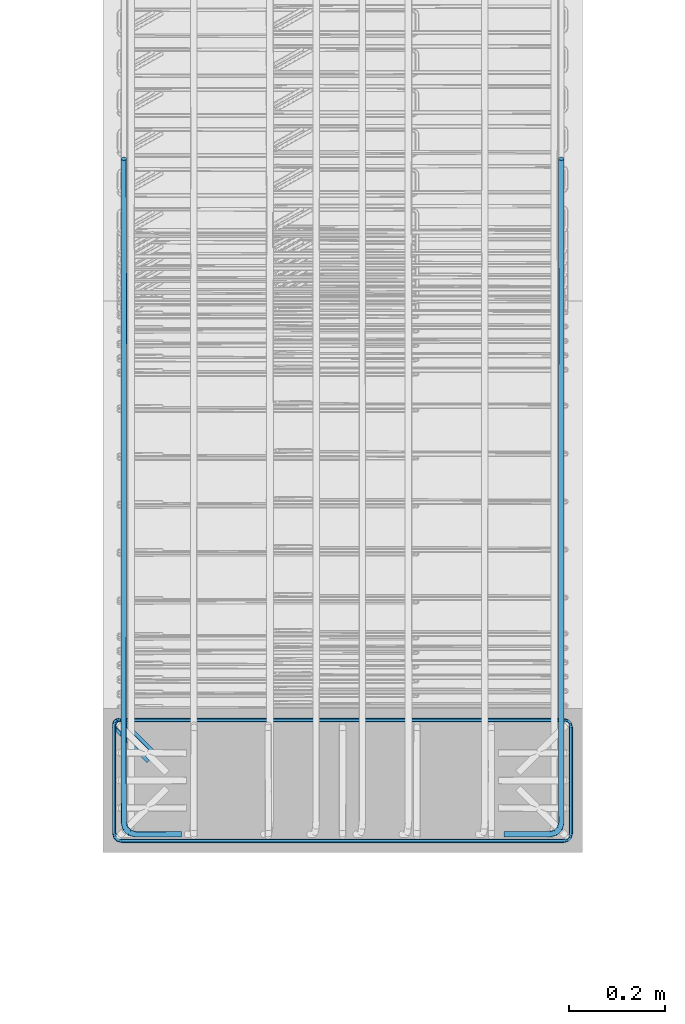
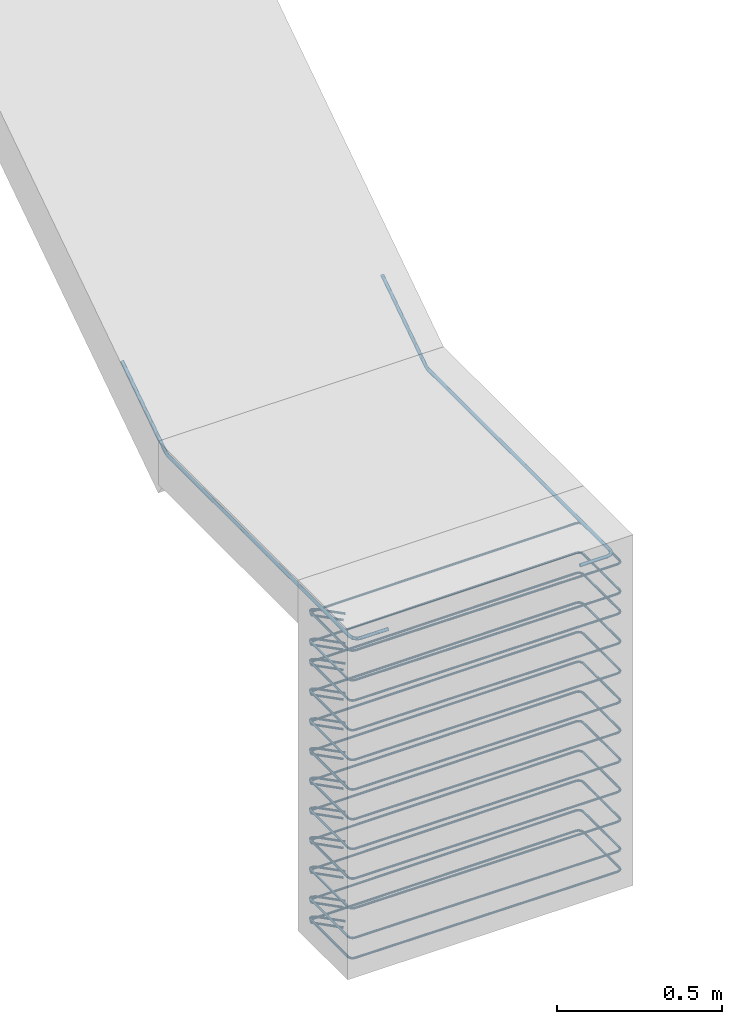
# One storey, part 2 of 24: 2 reinforcing bars.
"""IFC2X3 building model written with IfcOpenShell, lengths in metres."""

from ifc_helpers import new_model, entity, si_unit, direction, frame, origin, place, context, subcontext, project, spatial, shape, source, transform, mapped, element, save


model = new_model("IFC2X3")

# Units and contexts
model_context = context("Model", 3, precision=0.0, world=origin(), true_north=direction((0.0, 1.0)))
plan_context = context("Plan", 3, precision=0.0, world=origin(), true_north=direction((0.0, 1.0)))
body_context = subcontext(model_context, "Body", "Model", "MODEL_VIEW", scale=1.0)
ifc_project = project(units=[si_unit("LENGTHUNIT", "METRE"), si_unit("AREAUNIT", "SQUARE_METRE"), si_unit("VOLUMEUNIT", "CUBIC_METRE"), si_unit("PLANEANGLEUNIT", "RADIAN"), si_unit("THERMODYNAMICTEMPERATUREUNIT", "DEGREE_CELSIUS"), si_unit("FORCEUNIT", "NEWTON"), si_unit("MASSUNIT", "GRAM", prefix="KILO")], contexts=[model_context, plan_context])

# Site, building, storey
placement = place(None, origin())
site = spatial("IfcSite", under=ifc_project, at=placement, Name="Default Site", CompositionType="ELEMENT")
building = spatial("IfcBuilding", under=site, at=placement, Name="Default Building", CompositionType="ELEMENT")
storey_placement = place(placement, frame((0.0, 0.0, 3.3), z_axis=(1.0, 0.0, 0.0), x_axis=(0.0, 0.0, 1.0)))
storey = spatial("IfcBuildingStorey", under=building, at=storey_placement, Name="Piano 2", CompositionType="ELEMENT", Elevation=3.3)

# Reinforcing bars
shared_shape_1 = source(origin(), body_context, None, "AdvancedSweptSolid", [
    entity("IfcSweptDiskSolid", entity("IfcCompositeCurve", [entity("IfcCompositeCurveSegment", "CONTINUOUS", True, entity("IfcPolyline", [entity("IfcCartesianPoint", [0.0, 0.0, 0.0]), entity("IfcCartesianPoint", [-0.096, 0.0, 0.0]), entity("IfcCartesianPoint", [-0.108, 0.003215, 0.0]), entity("IfcCartesianPoint", [-0.116785, 0.012, 0.0]), entity("IfcCartesianPoint", [-0.12, 0.024, 0.0]), entity("IfcCartesianPoint", [-0.12, 0.112, 0.0]), entity("IfcCartesianPoint", [-0.12, 1.128955, 0.0]), entity("IfcCartesianPoint", [-0.12, 1.142268, 0.004031]), entity("IfcCartesianPoint", [-0.12, 1.408227, 0.181336])]))], False), 0.006, 0.0, 0.0),
])
shared_shape_2 = source(origin(), body_context, None, "MappedRepresentation", [mapped(shared_shape_1, transform((-4.336, -0.112, 1.221)))])
shared_shape_3 = source(origin(), body_context, None, "AdvancedSweptSolid", [
    entity("IfcSweptDiskSolid", entity("IfcCompositeCurve", [entity("IfcCompositeCurveSegment", "CONTINUOUS", True, entity("IfcPolyline", [entity("IfcCartesianPoint", [0.0, 0.0, 0.0]), entity("IfcCartesianPoint", [0.096, 0.0, 0.0]), entity("IfcCartesianPoint", [0.108, 0.003215, 0.0]), entity("IfcCartesianPoint", [0.116785, 0.012, 0.0]), entity("IfcCartesianPoint", [0.12, 0.024, 0.0]), entity("IfcCartesianPoint", [0.12, 0.112, 0.0]), entity("IfcCartesianPoint", [0.12, 1.128955, 0.0]), entity("IfcCartesianPoint", [0.12, 1.142268, 0.004031]), entity("IfcCartesianPoint", [0.12, 1.408227, 0.181336])]))], False), 0.006, 0.0, 0.0),
])
shared_shape_4 = source(origin(), body_context, None, "MappedRepresentation", [mapped(shared_shape_3, transform((-3.664, -0.112, 1.221)))])
element("IfcReinforcingBar", 1, at=placement, inside=storey, Name="Arm Generica; Trave:1 [Piano:2]", BarLength=3.143554, BarRole="NOTDEFINED", BarSurface="TEXTURED", NominalDiameter=0.012, shapes=[
    shape(body_context, None, "MappedRepresentation", [mapped(shared_shape_2, transform((0.0, 0.0, 0.0))), mapped(shared_shape_4, transform((0.0, 0.0, 0.0)))]),
])
shared_shape_5 = source(origin(), body_context, None, "AdvancedSweptSolid", [
    entity("IfcSweptDiskSolid", entity("IfcCompositeCurve", [entity("IfcCompositeCurveSegment", "CONTINUOUS", True, entity("IfcPolyline", [entity("IfcCartesianPoint", [0.0, 0.0, 0.0]), entity("IfcCartesianPoint", [-0.066024, 0.066024, -0.00031]), entity("IfcCartesianPoint", [-0.077338, 0.070711, -0.000354]), entity("IfcCartesianPoint", [-0.081803, 0.069514, -0.000373]), entity("IfcCartesianPoint", [-0.085071, 0.066246, -0.000395]), entity("IfcCartesianPoint", [-0.086267, 0.061782, -0.000414]), entity("IfcCartesianPoint", [-0.086267, -0.16529, -0.001168]), entity("IfcCartesianPoint", [-0.084123, -0.173289, -0.001202]), entity("IfcCartesianPoint", [-0.078267, -0.179146, -0.001241]), entity("IfcCartesianPoint", [-0.070267, -0.181289, -0.001274]), entity("IfcCartesianPoint", [0.849733, -0.181289, -0.004331]), entity("IfcCartesianPoint", [0.857733, -0.179146, -0.004364]), entity("IfcCartesianPoint", [0.863589, -0.173289, -0.004403]), entity("IfcCartesianPoint", [0.865733, -0.16529, -0.004437]), entity("IfcCartesianPoint", [0.865733, 0.054711, -0.005168]), entity("IfcCartesianPoint", [0.863589, 0.062711, -0.005202]), entity("IfcCartesianPoint", [0.857733, 0.068567, -0.005241]), entity("IfcCartesianPoint", [0.849733, 0.070711, -0.005274]), entity("IfcCartesianPoint", [-0.070711, 0.070711, -0.008332]), entity("IfcCartesianPoint", [-0.078489, 0.068627, -0.008365]), entity("IfcCartesianPoint", [-0.084183, 0.062933, -0.008403]), entity("IfcCartesianPoint", [-0.086267, 0.055154, -0.008436]), entity("IfcCartesianPoint", [-0.015556, -0.015556, -0.008768])]))], False), 0.004, 0.0, 0.0),
])
shared_shape_6 = source(origin(), body_context, None, "AdvancedSweptSolid", [
    entity("IfcSweptDiskSolid", entity("IfcCompositeCurve", [entity("IfcCompositeCurveSegment", "CONTINUOUS", True, entity("IfcPolyline", [entity("IfcCartesianPoint", [0.0, 0.0, 0.0]), entity("IfcCartesianPoint", [-0.066024, 0.066024, -0.00031]), entity("IfcCartesianPoint", [-0.077338, 0.070711, -0.000354]), entity("IfcCartesianPoint", [-0.081803, 0.069514, -0.000373]), entity("IfcCartesianPoint", [-0.085071, 0.066246, -0.000395]), entity("IfcCartesianPoint", [-0.086267, 0.061782, -0.000414]), entity("IfcCartesianPoint", [-0.086267, -0.16529, -0.001168]), entity("IfcCartesianPoint", [-0.084123, -0.173289, -0.001202]), entity("IfcCartesianPoint", [-0.078267, -0.179146, -0.001241]), entity("IfcCartesianPoint", [-0.070267, -0.181289, -0.001274]), entity("IfcCartesianPoint", [0.849733, -0.181289, -0.004331]), entity("IfcCartesianPoint", [0.857733, -0.179146, -0.004364]), entity("IfcCartesianPoint", [0.863589, -0.173289, -0.004403]), entity("IfcCartesianPoint", [0.865733, -0.16529, -0.004437]), entity("IfcCartesianPoint", [0.865733, 0.054711, -0.005168]), entity("IfcCartesianPoint", [0.863589, 0.062711, -0.005202]), entity("IfcCartesianPoint", [0.857733, 0.068567, -0.005241]), entity("IfcCartesianPoint", [0.849733, 0.070711, -0.005274]), entity("IfcCartesianPoint", [-0.070711, 0.070711, -0.008332]), entity("IfcCartesianPoint", [-0.078489, 0.068627, -0.008365]), entity("IfcCartesianPoint", [-0.084183, 0.062933, -0.008403]), entity("IfcCartesianPoint", [-0.086267, 0.055154, -0.008436]), entity("IfcCartesianPoint", [-0.015556, -0.015556, -0.008768])]))], False), 0.004, 0.0, 0.0),
])
shared_shape_7 = source(origin(), body_context, None, "AdvancedSweptSolid", [
    entity("IfcSweptDiskSolid", entity("IfcCompositeCurve", [entity("IfcCompositeCurveSegment", "CONTINUOUS", True, entity("IfcPolyline", [entity("IfcCartesianPoint", [0.0, 0.0, 0.0]), entity("IfcCartesianPoint", [-0.066024, 0.066024, -0.00031]), entity("IfcCartesianPoint", [-0.077338, 0.070711, -0.000354]), entity("IfcCartesianPoint", [-0.081803, 0.069514, -0.000373]), entity("IfcCartesianPoint", [-0.085071, 0.066246, -0.000395]), entity("IfcCartesianPoint", [-0.086267, 0.061782, -0.000414]), entity("IfcCartesianPoint", [-0.086267, -0.16529, -0.001168]), entity("IfcCartesianPoint", [-0.084123, -0.173289, -0.001202]), entity("IfcCartesianPoint", [-0.078267, -0.179146, -0.001241]), entity("IfcCartesianPoint", [-0.070267, -0.181289, -0.001274]), entity("IfcCartesianPoint", [0.849733, -0.181289, -0.004331]), entity("IfcCartesianPoint", [0.857733, -0.179146, -0.004364]), entity("IfcCartesianPoint", [0.863589, -0.173289, -0.004403]), entity("IfcCartesianPoint", [0.865733, -0.16529, -0.004437]), entity("IfcCartesianPoint", [0.865733, 0.054711, -0.005168]), entity("IfcCartesianPoint", [0.863589, 0.062711, -0.005202]), entity("IfcCartesianPoint", [0.857733, 0.068567, -0.005241]), entity("IfcCartesianPoint", [0.849733, 0.070711, -0.005274]), entity("IfcCartesianPoint", [-0.070711, 0.070711, -0.008332]), entity("IfcCartesianPoint", [-0.078489, 0.068627, -0.008365]), entity("IfcCartesianPoint", [-0.084183, 0.062933, -0.008403]), entity("IfcCartesianPoint", [-0.086267, 0.055154, -0.008436]), entity("IfcCartesianPoint", [-0.015556, -0.015556, -0.008768])]))], False), 0.004, 0.0, 0.0),
])
shared_shape_8 = source(origin(), body_context, None, "AdvancedSweptSolid", [
    entity("IfcSweptDiskSolid", entity("IfcCompositeCurve", [entity("IfcCompositeCurveSegment", "CONTINUOUS", True, entity("IfcPolyline", [entity("IfcCartesianPoint", [0.0, 0.0, 0.0]), entity("IfcCartesianPoint", [-0.066024, 0.066024, -0.00031]), entity("IfcCartesianPoint", [-0.077338, 0.070711, -0.000354]), entity("IfcCartesianPoint", [-0.081803, 0.069514, -0.000373]), entity("IfcCartesianPoint", [-0.085071, 0.066246, -0.000395]), entity("IfcCartesianPoint", [-0.086267, 0.061782, -0.000414]), entity("IfcCartesianPoint", [-0.086267, -0.16529, -0.001168]), entity("IfcCartesianPoint", [-0.084123, -0.173289, -0.001202]), entity("IfcCartesianPoint", [-0.078267, -0.179146, -0.001241]), entity("IfcCartesianPoint", [-0.070267, -0.181289, -0.001274]), entity("IfcCartesianPoint", [0.849733, -0.181289, -0.004331]), entity("IfcCartesianPoint", [0.857733, -0.179146, -0.004364]), entity("IfcCartesianPoint", [0.863589, -0.173289, -0.004403]), entity("IfcCartesianPoint", [0.865733, -0.16529, -0.004437]), entity("IfcCartesianPoint", [0.865733, 0.054711, -0.005168]), entity("IfcCartesianPoint", [0.863589, 0.062711, -0.005202]), entity("IfcCartesianPoint", [0.857733, 0.068567, -0.005241]), entity("IfcCartesianPoint", [0.849733, 0.070711, -0.005274]), entity("IfcCartesianPoint", [-0.070711, 0.070711, -0.008332]), entity("IfcCartesianPoint", [-0.078489, 0.068627, -0.008365]), entity("IfcCartesianPoint", [-0.084183, 0.062933, -0.008403]), entity("IfcCartesianPoint", [-0.086267, 0.055154, -0.008436]), entity("IfcCartesianPoint", [-0.015556, -0.015556, -0.008768])]))], False), 0.004, 0.0, 0.0),
])
shared_shape_9 = source(origin(), body_context, None, "AdvancedSweptSolid", [
    entity("IfcSweptDiskSolid", entity("IfcCompositeCurve", [entity("IfcCompositeCurveSegment", "CONTINUOUS", True, entity("IfcPolyline", [entity("IfcCartesianPoint", [0.0, 0.0, 0.0]), entity("IfcCartesianPoint", [-0.066024, 0.066024, -0.00031]), entity("IfcCartesianPoint", [-0.077338, 0.070711, -0.000354]), entity("IfcCartesianPoint", [-0.081803, 0.069514, -0.000373]), entity("IfcCartesianPoint", [-0.085071, 0.066246, -0.000395]), entity("IfcCartesianPoint", [-0.086267, 0.061782, -0.000414]), entity("IfcCartesianPoint", [-0.086267, -0.16529, -0.001168]), entity("IfcCartesianPoint", [-0.084123, -0.173289, -0.001202]), entity("IfcCartesianPoint", [-0.078267, -0.179146, -0.001241]), entity("IfcCartesianPoint", [-0.070267, -0.181289, -0.001274]), entity("IfcCartesianPoint", [0.849733, -0.181289, -0.004331]), entity("IfcCartesianPoint", [0.857733, -0.179146, -0.004364]), entity("IfcCartesianPoint", [0.863589, -0.173289, -0.004403]), entity("IfcCartesianPoint", [0.865733, -0.16529, -0.004437]), entity("IfcCartesianPoint", [0.865733, 0.054711, -0.005168]), entity("IfcCartesianPoint", [0.863589, 0.062711, -0.005202]), entity("IfcCartesianPoint", [0.857733, 0.068567, -0.005241]), entity("IfcCartesianPoint", [0.849733, 0.070711, -0.005274]), entity("IfcCartesianPoint", [-0.070711, 0.070711, -0.008332]), entity("IfcCartesianPoint", [-0.078489, 0.068627, -0.008365]), entity("IfcCartesianPoint", [-0.084183, 0.062933, -0.008403]), entity("IfcCartesianPoint", [-0.086267, 0.055154, -0.008436]), entity("IfcCartesianPoint", [-0.015556, -0.015556, -0.008768])]))], False), 0.004, 0.0, 0.0),
])
shared_shape_10 = source(origin(), body_context, None, "AdvancedSweptSolid", [
    entity("IfcSweptDiskSolid", entity("IfcCompositeCurve", [entity("IfcCompositeCurveSegment", "CONTINUOUS", True, entity("IfcPolyline", [entity("IfcCartesianPoint", [0.0, 0.0, 0.0]), entity("IfcCartesianPoint", [-0.066024, 0.066024, -0.00031]), entity("IfcCartesianPoint", [-0.077338, 0.070711, -0.000354]), entity("IfcCartesianPoint", [-0.081803, 0.069514, -0.000373]), entity("IfcCartesianPoint", [-0.085071, 0.066246, -0.000395]), entity("IfcCartesianPoint", [-0.086267, 0.061782, -0.000414]), entity("IfcCartesianPoint", [-0.086267, -0.16529, -0.001168]), entity("IfcCartesianPoint", [-0.084123, -0.173289, -0.001202]), entity("IfcCartesianPoint", [-0.078267, -0.179146, -0.001241]), entity("IfcCartesianPoint", [-0.070267, -0.181289, -0.001274]), entity("IfcCartesianPoint", [0.849733, -0.181289, -0.004331]), entity("IfcCartesianPoint", [0.857733, -0.179146, -0.004364]), entity("IfcCartesianPoint", [0.863589, -0.173289, -0.004403]), entity("IfcCartesianPoint", [0.865733, -0.16529, -0.004437]), entity("IfcCartesianPoint", [0.865733, 0.054711, -0.005168]), entity("IfcCartesianPoint", [0.863589, 0.062711, -0.005202]), entity("IfcCartesianPoint", [0.857733, 0.068567, -0.005241]), entity("IfcCartesianPoint", [0.849733, 0.070711, -0.005274]), entity("IfcCartesianPoint", [-0.070711, 0.070711, -0.008332]), entity("IfcCartesianPoint", [-0.078489, 0.068627, -0.008365]), entity("IfcCartesianPoint", [-0.084183, 0.062933, -0.008403]), entity("IfcCartesianPoint", [-0.086267, 0.055154, -0.008436]), entity("IfcCartesianPoint", [-0.015556, -0.015556, -0.008768])]))], False), 0.004, 0.0, 0.0),
])
shared_shape_11 = source(origin(), body_context, None, "AdvancedSweptSolid", [
    entity("IfcSweptDiskSolid", entity("IfcCompositeCurve", [entity("IfcCompositeCurveSegment", "CONTINUOUS", True, entity("IfcPolyline", [entity("IfcCartesianPoint", [0.0, 0.0, 0.0]), entity("IfcCartesianPoint", [-0.066024, 0.066024, -0.00031]), entity("IfcCartesianPoint", [-0.077338, 0.070711, -0.000354]), entity("IfcCartesianPoint", [-0.081803, 0.069514, -0.000373]), entity("IfcCartesianPoint", [-0.085071, 0.066246, -0.000395]), entity("IfcCartesianPoint", [-0.086267, 0.061782, -0.000414]), entity("IfcCartesianPoint", [-0.086267, -0.16529, -0.001168]), entity("IfcCartesianPoint", [-0.084123, -0.173289, -0.001202]), entity("IfcCartesianPoint", [-0.078267, -0.179146, -0.001241]), entity("IfcCartesianPoint", [-0.070267, -0.181289, -0.001274]), entity("IfcCartesianPoint", [0.849733, -0.181289, -0.004331]), entity("IfcCartesianPoint", [0.857733, -0.179146, -0.004364]), entity("IfcCartesianPoint", [0.863589, -0.173289, -0.004403]), entity("IfcCartesianPoint", [0.865733, -0.16529, -0.004437]), entity("IfcCartesianPoint", [0.865733, 0.054711, -0.005168]), entity("IfcCartesianPoint", [0.863589, 0.062711, -0.005202]), entity("IfcCartesianPoint", [0.857733, 0.068567, -0.005241]), entity("IfcCartesianPoint", [0.849733, 0.070711, -0.005274]), entity("IfcCartesianPoint", [-0.070711, 0.070711, -0.008332]), entity("IfcCartesianPoint", [-0.078489, 0.068627, -0.008365]), entity("IfcCartesianPoint", [-0.084183, 0.062933, -0.008403]), entity("IfcCartesianPoint", [-0.086267, 0.055154, -0.008436]), entity("IfcCartesianPoint", [-0.015556, -0.015556, -0.008768])]))], False), 0.004, 0.0, 0.0),
])
shared_shape_12 = source(origin(), body_context, None, "AdvancedSweptSolid", [
    entity("IfcSweptDiskSolid", entity("IfcCompositeCurve", [entity("IfcCompositeCurveSegment", "CONTINUOUS", True, entity("IfcPolyline", [entity("IfcCartesianPoint", [0.0, 0.0, 0.0]), entity("IfcCartesianPoint", [-0.066024, 0.066024, -0.00031]), entity("IfcCartesianPoint", [-0.077338, 0.070711, -0.000354]), entity("IfcCartesianPoint", [-0.081803, 0.069514, -0.000373]), entity("IfcCartesianPoint", [-0.085071, 0.066246, -0.000395]), entity("IfcCartesianPoint", [-0.086267, 0.061782, -0.000414]), entity("IfcCartesianPoint", [-0.086267, -0.16529, -0.001168]), entity("IfcCartesianPoint", [-0.084123, -0.173289, -0.001202]), entity("IfcCartesianPoint", [-0.078267, -0.179146, -0.001241]), entity("IfcCartesianPoint", [-0.070267, -0.181289, -0.001274]), entity("IfcCartesianPoint", [0.849733, -0.181289, -0.004331]), entity("IfcCartesianPoint", [0.857733, -0.179146, -0.004364]), entity("IfcCartesianPoint", [0.863589, -0.173289, -0.004403]), entity("IfcCartesianPoint", [0.865733, -0.16529, -0.004437]), entity("IfcCartesianPoint", [0.865733, 0.054711, -0.005168]), entity("IfcCartesianPoint", [0.863589, 0.062711, -0.005202]), entity("IfcCartesianPoint", [0.857733, 0.068567, -0.005241]), entity("IfcCartesianPoint", [0.849733, 0.070711, -0.005274]), entity("IfcCartesianPoint", [-0.070711, 0.070711, -0.008332]), entity("IfcCartesianPoint", [-0.078489, 0.068627, -0.008365]), entity("IfcCartesianPoint", [-0.084183, 0.062933, -0.008403]), entity("IfcCartesianPoint", [-0.086267, 0.055154, -0.008436]), entity("IfcCartesianPoint", [-0.015556, -0.015556, -0.008768])]))], False), 0.004, 0.0, 0.0),
])
shared_shape_13 = source(origin(), body_context, None, "AdvancedSweptSolid", [
    entity("IfcSweptDiskSolid", entity("IfcCompositeCurve", [entity("IfcCompositeCurveSegment", "CONTINUOUS", True, entity("IfcPolyline", [entity("IfcCartesianPoint", [0.0, 0.0, 0.0]), entity("IfcCartesianPoint", [-0.066024, 0.066024, -0.00031]), entity("IfcCartesianPoint", [-0.077338, 0.070711, -0.000354]), entity("IfcCartesianPoint", [-0.081803, 0.069514, -0.000373]), entity("IfcCartesianPoint", [-0.085071, 0.066246, -0.000395]), entity("IfcCartesianPoint", [-0.086267, 0.061782, -0.000414]), entity("IfcCartesianPoint", [-0.086267, -0.16529, -0.001168]), entity("IfcCartesianPoint", [-0.084123, -0.173289, -0.001202]), entity("IfcCartesianPoint", [-0.078267, -0.179146, -0.001241]), entity("IfcCartesianPoint", [-0.070267, -0.181289, -0.001274]), entity("IfcCartesianPoint", [0.849733, -0.181289, -0.004331]), entity("IfcCartesianPoint", [0.857733, -0.179146, -0.004364]), entity("IfcCartesianPoint", [0.863589, -0.173289, -0.004403]), entity("IfcCartesianPoint", [0.865733, -0.16529, -0.004437]), entity("IfcCartesianPoint", [0.865733, 0.054711, -0.005168]), entity("IfcCartesianPoint", [0.863589, 0.062711, -0.005202]), entity("IfcCartesianPoint", [0.857733, 0.068567, -0.005241]), entity("IfcCartesianPoint", [0.849733, 0.070711, -0.005274]), entity("IfcCartesianPoint", [-0.070711, 0.070711, -0.008332]), entity("IfcCartesianPoint", [-0.078489, 0.068627, -0.008365]), entity("IfcCartesianPoint", [-0.084183, 0.062933, -0.008403]), entity("IfcCartesianPoint", [-0.086267, 0.055154, -0.008436]), entity("IfcCartesianPoint", [-0.015556, -0.015556, -0.008768])]))], False), 0.004, 0.0, 0.0),
])
shared_shape_14 = source(origin(), body_context, None, "AdvancedSweptSolid", [
    entity("IfcSweptDiskSolid", entity("IfcCompositeCurve", [entity("IfcCompositeCurveSegment", "CONTINUOUS", True, entity("IfcPolyline", [entity("IfcCartesianPoint", [0.0, 0.0, 0.0]), entity("IfcCartesianPoint", [-0.066024, 0.066024, -0.00031]), entity("IfcCartesianPoint", [-0.077338, 0.070711, -0.000354]), entity("IfcCartesianPoint", [-0.081803, 0.069514, -0.000373]), entity("IfcCartesianPoint", [-0.085071, 0.066246, -0.000395]), entity("IfcCartesianPoint", [-0.086267, 0.061782, -0.000414]), entity("IfcCartesianPoint", [-0.086267, -0.16529, -0.001168]), entity("IfcCartesianPoint", [-0.084123, -0.173289, -0.001202]), entity("IfcCartesianPoint", [-0.078267, -0.179146, -0.001241]), entity("IfcCartesianPoint", [-0.070267, -0.181289, -0.001274]), entity("IfcCartesianPoint", [0.849733, -0.181289, -0.004331]), entity("IfcCartesianPoint", [0.857733, -0.179146, -0.004364]), entity("IfcCartesianPoint", [0.863589, -0.173289, -0.004403]), entity("IfcCartesianPoint", [0.865733, -0.16529, -0.004437]), entity("IfcCartesianPoint", [0.865733, 0.054711, -0.005168]), entity("IfcCartesianPoint", [0.863589, 0.062711, -0.005202]), entity("IfcCartesianPoint", [0.857733, 0.068567, -0.005241]), entity("IfcCartesianPoint", [0.849733, 0.070711, -0.005274]), entity("IfcCartesianPoint", [-0.070711, 0.070711, -0.008332]), entity("IfcCartesianPoint", [-0.078489, 0.068627, -0.008365]), entity("IfcCartesianPoint", [-0.084183, 0.062933, -0.008403]), entity("IfcCartesianPoint", [-0.086267, 0.055154, -0.008436]), entity("IfcCartesianPoint", [-0.015556, -0.015556, -0.008768])]))], False), 0.004, 0.0, 0.0),
])
shared_shape_15 = source(origin(), body_context, None, "AdvancedSweptSolid", [
    entity("IfcSweptDiskSolid", entity("IfcCompositeCurve", [entity("IfcCompositeCurveSegment", "CONTINUOUS", True, entity("IfcPolyline", [entity("IfcCartesianPoint", [0.0, 0.0, 0.0]), entity("IfcCartesianPoint", [-0.066024, 0.066024, -0.00031]), entity("IfcCartesianPoint", [-0.077338, 0.070711, -0.000354]), entity("IfcCartesianPoint", [-0.081803, 0.069514, -0.000373]), entity("IfcCartesianPoint", [-0.085071, 0.066246, -0.000395]), entity("IfcCartesianPoint", [-0.086267, 0.061782, -0.000414]), entity("IfcCartesianPoint", [-0.086267, -0.16529, -0.001168]), entity("IfcCartesianPoint", [-0.084123, -0.173289, -0.001202]), entity("IfcCartesianPoint", [-0.078267, -0.179146, -0.001241]), entity("IfcCartesianPoint", [-0.070267, -0.181289, -0.001274]), entity("IfcCartesianPoint", [0.849733, -0.181289, -0.004331]), entity("IfcCartesianPoint", [0.857733, -0.179146, -0.004364]), entity("IfcCartesianPoint", [0.863589, -0.173289, -0.004403]), entity("IfcCartesianPoint", [0.865733, -0.16529, -0.004437]), entity("IfcCartesianPoint", [0.865733, 0.054711, -0.005168]), entity("IfcCartesianPoint", [0.863589, 0.062711, -0.005202]), entity("IfcCartesianPoint", [0.857733, 0.068567, -0.005241]), entity("IfcCartesianPoint", [0.849733, 0.070711, -0.005274]), entity("IfcCartesianPoint", [-0.070711, 0.070711, -0.008332]), entity("IfcCartesianPoint", [-0.078489, 0.068627, -0.008365]), entity("IfcCartesianPoint", [-0.084183, 0.062933, -0.008403]), entity("IfcCartesianPoint", [-0.086267, 0.055154, -0.008436]), entity("IfcCartesianPoint", [-0.015556, -0.015556, -0.008768])]))], False), 0.004, 0.0, 0.0),
])
shared_shape_16 = source(origin(), body_context, None, "AdvancedSweptSolid", [
    entity("IfcSweptDiskSolid", entity("IfcCompositeCurve", [entity("IfcCompositeCurveSegment", "CONTINUOUS", True, entity("IfcPolyline", [entity("IfcCartesianPoint", [0.0, 0.0, 0.0]), entity("IfcCartesianPoint", [-0.066024, 0.066024, -0.00031]), entity("IfcCartesianPoint", [-0.077338, 0.070711, -0.000354]), entity("IfcCartesianPoint", [-0.081803, 0.069514, -0.000373]), entity("IfcCartesianPoint", [-0.085071, 0.066246, -0.000395]), entity("IfcCartesianPoint", [-0.086267, 0.061782, -0.000414]), entity("IfcCartesianPoint", [-0.086267, -0.16529, -0.001168]), entity("IfcCartesianPoint", [-0.084123, -0.173289, -0.001202]), entity("IfcCartesianPoint", [-0.078267, -0.179146, -0.001241]), entity("IfcCartesianPoint", [-0.070267, -0.181289, -0.001274]), entity("IfcCartesianPoint", [0.849733, -0.181289, -0.004331]), entity("IfcCartesianPoint", [0.857733, -0.179146, -0.004364]), entity("IfcCartesianPoint", [0.863589, -0.173289, -0.004403]), entity("IfcCartesianPoint", [0.865733, -0.16529, -0.004437]), entity("IfcCartesianPoint", [0.865733, 0.054711, -0.005168]), entity("IfcCartesianPoint", [0.863589, 0.062711, -0.005202]), entity("IfcCartesianPoint", [0.857733, 0.068567, -0.005241]), entity("IfcCartesianPoint", [0.849733, 0.070711, -0.005274]), entity("IfcCartesianPoint", [-0.070711, 0.070711, -0.008332]), entity("IfcCartesianPoint", [-0.078489, 0.068627, -0.008365]), entity("IfcCartesianPoint", [-0.084183, 0.062933, -0.008403]), entity("IfcCartesianPoint", [-0.086267, 0.055154, -0.008436]), entity("IfcCartesianPoint", [-0.015556, -0.015556, -0.008768])]))], False), 0.004, 0.0, 0.0),
])
element("IfcReinforcingBar", 2, at=placement, inside=storey, Name="Arm Staffa; Pilastro:8 [Piano:2]", BarLength=31.268542, BarRole="SHEAR", BarSurface="TEXTURED", NominalDiameter=0.008, shapes=[
    shape(body_context, None, "MappedRepresentation", [mapped(shared_shape_5, transform((-4.389733, 0.055289, 1.195))), mapped(shared_shape_6, transform((-4.389733, 0.055289, 1.085))), mapped(shared_shape_7, transform((-4.389733, 0.055289, 1.01))), mapped(shared_shape_8, transform((-4.389733, 0.055289, 0.9))), mapped(shared_shape_9, transform((-4.389733, 0.055289, 0.79))), mapped(shared_shape_10, transform((-4.389733, 0.055289, 0.68))), mapped(shared_shape_11, transform((-4.389733, 0.055289, 0.57))), mapped(shared_shape_12, transform((-4.389733, 0.055289, 0.46))), mapped(shared_shape_13, transform((-4.389733, 0.055289, 0.35))), mapped(shared_shape_14, transform((-4.389733, 0.055289, 0.24))), mapped(shared_shape_15, transform((-4.389733, 0.055289, 0.13))), mapped(shared_shape_16, transform((-4.389733, 0.055289, 0.055)))]),
])

save(model, "model.ifc")
